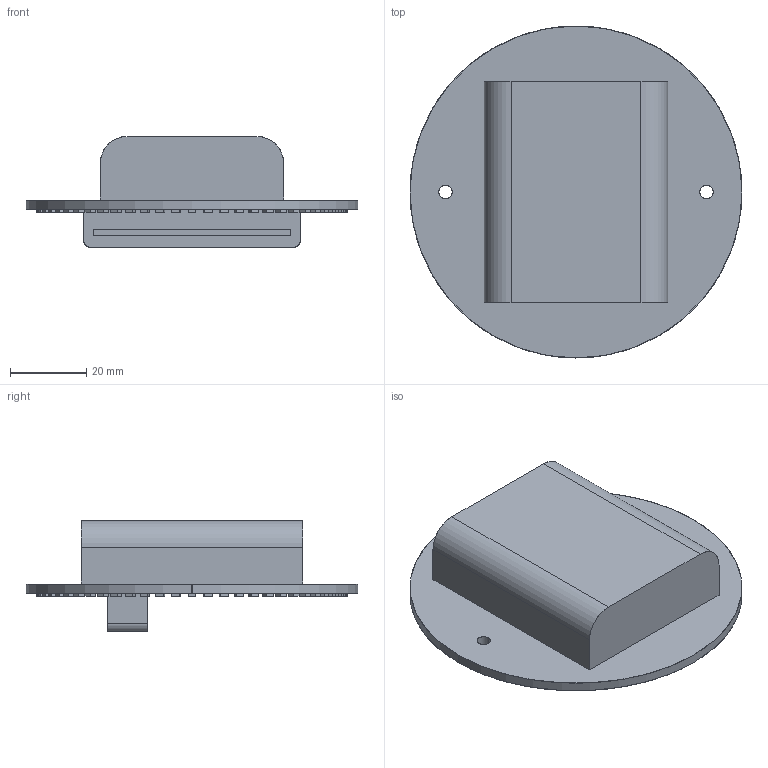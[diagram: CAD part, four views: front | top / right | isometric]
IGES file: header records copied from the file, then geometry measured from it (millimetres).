
Start section: SolidWorks IGES file using analytic representation for surfaces
Global section: file name: Z:\STIDD-Tronc commun\DEF_INNOV\Led HALO.IGS; native system: SolidWorks 2022; preprocessor: SolidWorks 2022; author: laurent.fayat; date: 250403.160317; units: millimetre
Bounding box: 87 x 87 x 29.1 mm (x, y, z)
Surface area: 17959.4 mm2 (no closed solid volume)
Topology: 0 solids, 0 shells, 327 faces, 1872 edges, 1872 vertices
Faces by surface type: bspline 317, revolution 10
